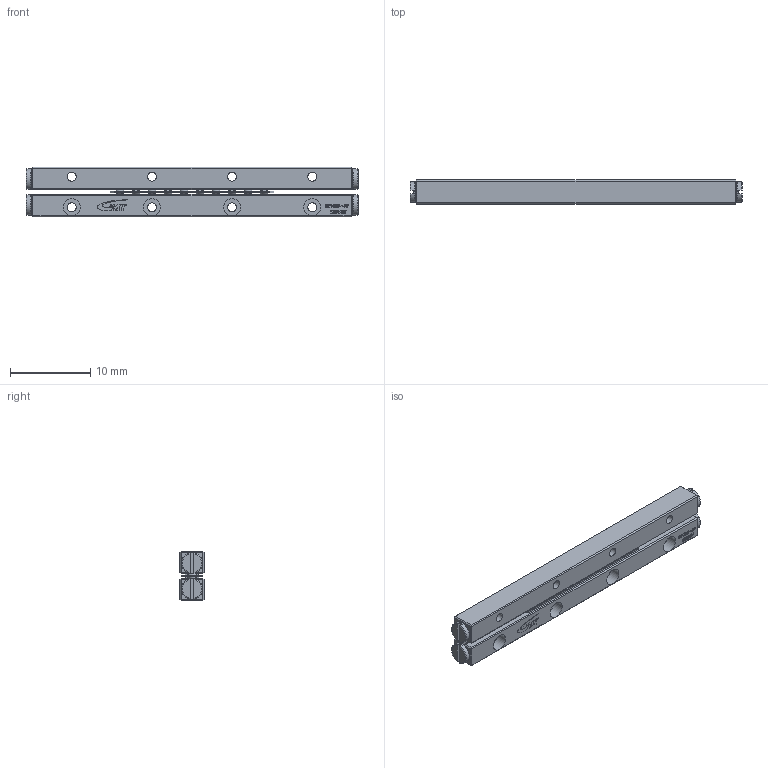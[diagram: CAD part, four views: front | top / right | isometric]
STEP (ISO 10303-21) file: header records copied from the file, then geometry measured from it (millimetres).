
FILE_DESCRIPTION (( 'STEP AP203' ), '1' );
FILE_NAME ('GRV00-40.STEP', '2023-08-02T02:30:19', ( '' ), ( '' ), 'SwSTEP 2.0', 'SolidWorks 2019', '' );
FILE_SCHEMA (( 'CONFIG_CONTROL_DESIGN' ));
Length unit declared in the file: millimetre
Products named in the file (3): GRV00-40-模糊化保持器組; GRV00-40; GRV00-40-模糊化軌道
Assembly tree (3 placements, depth 2):
  GRV00-40
    GRV00-40-模糊化軌道  x2
    GRV00-40-模糊化保持器組
Bounding box: 41.4 x 3 x 6.2 mm (x, y, z)
Volume: 625.2 mm3; surface area: 1273.4 mm2
Topology: 3 solids, 3 shells, 1162 faces, 3124 edges, 2060 vertices
Faces by surface type: plane 846, bspline 204, cylinder 80, torus 32
Full cylindrical faces by diameter (mm): 1.1 x8, 2.1 x8, 2.6 x4
Entity records: 23013 total; most frequent: CARTESIAN_POINT 6478, ORIENTED_EDGE 3588, DIRECTION 2846, EDGE_CURVE 1794, LINE 1358, VECTOR 1358, VERTEX_POINT 1190, EDGE_LOOP 772
